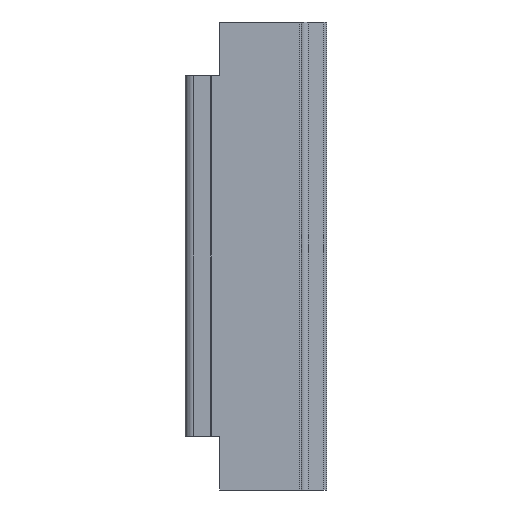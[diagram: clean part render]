
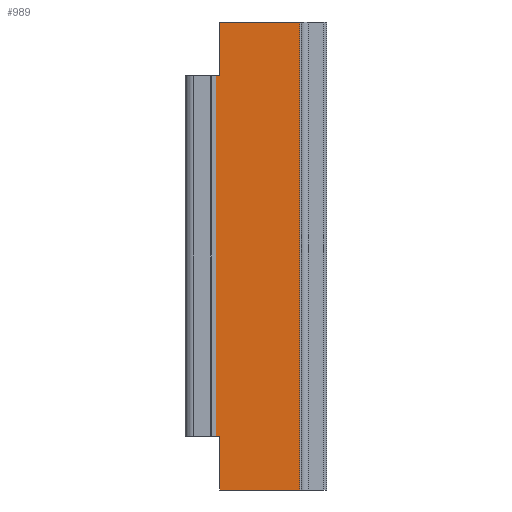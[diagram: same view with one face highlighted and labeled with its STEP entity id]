
A CAD part, left-side view. The second image highlights one B-rep face of the part: STEP entity #989.
In plain terms, the highlighted planar face has unit normal (-1, 0, 0).
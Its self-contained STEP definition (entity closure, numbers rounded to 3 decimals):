
#17 = VECTOR ( 'NONE', #172, 1000. ) ;
#20 = LINE ( 'NONE', #185, #35 ) ;
#35 = VECTOR ( 'NONE', #189, 1000. ) ;
#70 = LINE ( 'NONE', #400, #71 ) ;
#71 = VECTOR ( 'NONE', #401, 1000. ) ;
#80 = VECTOR ( 'NONE', #273, 1000. ) ;
#94 = LINE ( 'NONE', #267, #80 ) ;
#102 = LINE ( 'NONE', #430, #116 ) ;
#116 = VECTOR ( 'NONE', #434, 1000. ) ;
#149 = CARTESIAN_POINT ( 'NONE',  ( -2.8, -14.555, 318. ) ) ;
#154 = CARTESIAN_POINT ( 'NONE',  ( -2.8, -14.555, 281.5 ) ) ;
#155 = DIRECTION ( 'NONE',  ( 0., -1., 0. ) ) ;
#156 = DIRECTION ( 'NONE',  ( 0., 1., 0. ) ) ;
#169 = CARTESIAN_POINT ( 'NONE',  ( -2.8, -14.555, 0. ) ) ;
#172 = DIRECTION ( 'NONE',  ( 0., -1., 0. ) ) ;
#185 = CARTESIAN_POINT ( 'NONE',  ( -2.8, -14.555, 36.5 ) ) ;
#189 = DIRECTION ( 'NONE',  ( 0., -1., 0. ) ) ;
#267 = CARTESIAN_POINT ( 'NONE',  ( -2.8, -14.928, 318. ) ) ;
#273 = DIRECTION ( 'NONE',  ( 0., 0., -1. ) ) ;
#297 = VERTEX_POINT ( 'NONE', #355 ) ;
#302 = VERTEX_POINT ( 'NONE', #360 ) ;
#319 = VERTEX_POINT ( 'NONE', #377 ) ;
#327 = VERTEX_POINT ( 'NONE', #385 ) ;
#328 = VERTEX_POINT ( 'NONE', #386 ) ;
#332 = VERTEX_POINT ( 'NONE', #390 ) ;
#337 = VERTEX_POINT ( 'NONE', #1245 ) ;
#350 = VERTEX_POINT ( 'NONE', #1258 ) ;
#355 = CARTESIAN_POINT ( 'NONE',  ( -2.8, -72.063, 318. ) ) ;
#360 = CARTESIAN_POINT ( 'NONE',  ( -2.8, -17.7, 318. ) ) ;
#377 = CARTESIAN_POINT ( 'NONE',  ( -2.8, -17.7, 281.5 ) ) ;
#385 = CARTESIAN_POINT ( 'NONE',  ( -2.8, -14.928, 281.5 ) ) ;
#386 = CARTESIAN_POINT ( 'NONE',  ( -2.8, -14.928, 36.5 ) ) ;
#390 = CARTESIAN_POINT ( 'NONE',  ( -2.8, -17.7, 36.5 ) ) ;
#400 = CARTESIAN_POINT ( 'NONE',  ( -2.8, -17.7, 318. ) ) ;
#401 = DIRECTION ( 'NONE',  ( 0., 0., -1. ) ) ;
#430 = CARTESIAN_POINT ( 'NONE',  ( -2.8, -72.063, 318. ) ) ;
#434 = DIRECTION ( 'NONE',  ( 0., 0., 1. ) ) ;
#492 = PLANE ( 'NONE',  #1217 ) ;
#495 = CARTESIAN_POINT ( 'NONE',  ( -2.8, -14.555, 318. ) ) ;
#501 = DIRECTION ( 'NONE',  ( 1., 0., 0. ) ) ;
#502 = DIRECTION ( 'NONE',  ( 0., 1., 0. ) ) ;
#617 = ORIENTED_EDGE ( 'NONE', *, *, #1105, .F. ) ;
#619 = ORIENTED_EDGE ( 'NONE', *, *, #1172, .T. ) ;
#639 = ORIENTED_EDGE ( 'NONE', *, *, #1066, .T. ) ;
#667 = ORIENTED_EDGE ( 'NONE', *, *, #1110, .T. ) ;
#668 = ORIENTED_EDGE ( 'NONE', *, *, #1126, .T. ) ;
#687 = ORIENTED_EDGE ( 'NONE', *, *, #1229, .T. ) ;
#688 = ORIENTED_EDGE ( 'NONE', *, *, #1155, .T. ) ;
#749 = VECTOR ( 'NONE', #954, 1000. ) ;
#765 = LINE ( 'NONE', #149, #815 ) ;
#770 = ORIENTED_EDGE ( 'NONE', *, *, #1137, .T. ) ;
#797 = LINE ( 'NONE', #948, #749 ) ;
#815 = VECTOR ( 'NONE', #155, 1000. ) ;
#835 = VECTOR ( 'NONE', #156, 1000. ) ;
#840 = LINE ( 'NONE', #169, #17 ) ;
#861 = LINE ( 'NONE', #154, #835 ) ;
#867 = FACE_OUTER_BOUND ( 'NONE', #1016, .T. ) ;
#948 = CARTESIAN_POINT ( 'NONE',  ( -2.8, -17.7, 318. ) ) ;
#954 = DIRECTION ( 'NONE',  ( 0., 0., -1. ) ) ;
#989 = ADVANCED_FACE ( 'NONE', ( #867 ), #492, .F. ) ;
#1016 = EDGE_LOOP ( 'NONE', ( #639, #667, #687, #770, #688, #668, #619, #617 ) ) ;
#1066 = EDGE_CURVE ( 'NONE', #302, #319, #797, .T. ) ;
#1105 = EDGE_CURVE ( 'NONE', #302, #297, #765, .T. ) ;
#1110 = EDGE_CURVE ( 'NONE', #319, #327, #861, .T. ) ;
#1126 = EDGE_CURVE ( 'NONE', #337, #350, #840, .T. ) ;
#1137 = EDGE_CURVE ( 'NONE', #328, #332, #20, .T. ) ;
#1155 = EDGE_CURVE ( 'NONE', #332, #337, #70, .T. ) ;
#1172 = EDGE_CURVE ( 'NONE', #350, #297, #102, .T. ) ;
#1217 = AXIS2_PLACEMENT_3D ( 'NONE', #495, #501, #502 ) ;
#1229 = EDGE_CURVE ( 'NONE', #327, #328, #94, .T. ) ;
#1245 = CARTESIAN_POINT ( 'NONE',  ( -2.8, -17.7, 0. ) ) ;
#1258 = CARTESIAN_POINT ( 'NONE',  ( -2.8, -72.063, 0. ) ) ;
